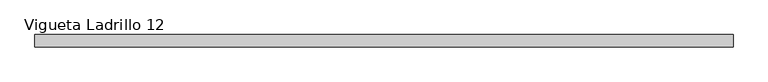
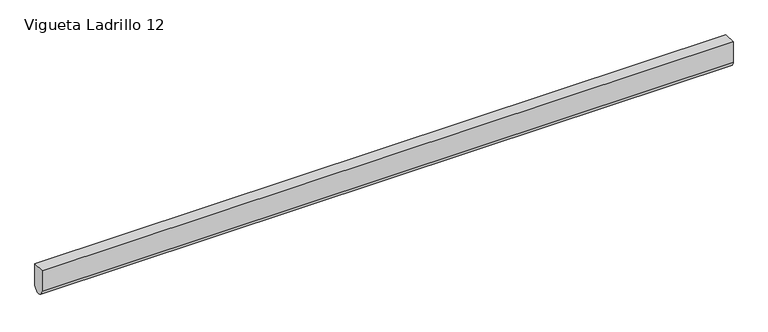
"""IFC4 building model written with IfcOpenShell, lengths in millimetres: beam geometry, Vigueta Ladrillo 12 : Ladrillo Exacta 12."""

from ifc_helpers import new_model, si_unit, point, frame, frame_2d, origin, place, context, project, spatial, polyline, circle_curve, trimmed, segment, composite_curve, outline, extrude, source, transform, mapped, element, save


def vigueta_ladrillo_12_c73e1c85(model_context):
    return source(origin(), model_context, "Body", "SweptSolid", [
        extrude(outline(composite_curve([segment(polyline([(28.15, 63.4), (28.15, -35.25)]), True, "CONTINUOUS"), segment(trimmed(circle_curve(frame_2d((0.0, -35.25)), 28.15), [point((28.15, -35.25))], [point((-28.15, -35.25))], False, "CARTESIAN"), True, "CONTINUOUS"), segment(polyline([(-28.15, -35.25), (-28.15, 63.4), (28.15, 63.4)]), True, "CONTINUOUS")], self_intersect=False)), frame((-1582.7, 0.0, 0.0), z_axis=(1.0, 0.0, 0.0), x_axis=(0.0, 1.0, 0.0)), (0.0, 0.0, 1.0), 3165.4),
    ])


if __name__ == "__main__":
    model = new_model("IFC4")
    model_context = context("Model", 3, world=origin())
    ifc_project = project(units=[si_unit("LENGTHUNIT", "METRE", prefix="MILLI")], contexts=[model_context])
    site = spatial("IfcSite", under=ifc_project)
    building = spatial("IfcBuilding", under=site)
    placement = place(None, origin())
    vigueta_ladrillo_12_shape = vigueta_ladrillo_12_c73e1c85(model_context)
    element("IfcBeam", 1, ObjectType="Vigueta Ladrillo 12 : Ladrillo Exacta 12", at=placement, inside=building, context=model_context, shape_type="MappedRepresentation", body=[
        mapped(vigueta_ladrillo_12_shape, transform((0.0, 0.0, 0.0), x_axis=(1.0, 0.0, 0.0), y_axis=(0.0, 1.0, 0.0), z_axis=(0.0, 0.0, 1.0))),
    ])
    save(model, "model.ifc")
